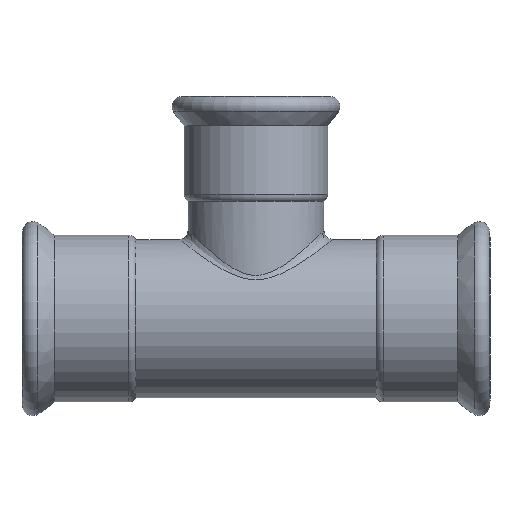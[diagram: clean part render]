
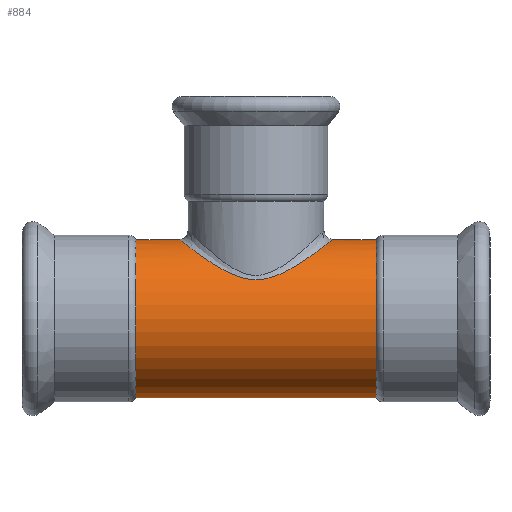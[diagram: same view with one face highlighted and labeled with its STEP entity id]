
A CAD part, front view. The second image highlights one B-rep face of the part: STEP entity #884.
In plain terms, the highlighted cylindrical face has radius 44.45 mm (diameter 88.9 mm), a full revolution.
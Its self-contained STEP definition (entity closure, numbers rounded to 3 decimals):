
#16=FACE_BOUND('',#169,.T.);
#22=B_SPLINE_CURVE_WITH_KNOTS('',3,(#2309,#2310,#2311,#2312,#2313,#2314,
#2315,#2316,#2317,#2318,#2319,#2320,#2321,#2322,#2323,#2324,#2325,#2326,
#2327,#2328,#2329,#2330,#2331,#2332,#2333,#2334,#2335,#2336,#2337,#2338,
#2339,#2340,#2341,#2342),.UNSPECIFIED.,.T.,.F.,(4,1,1,1,1,1,1,1,1,1,1,1,
1,1,1,1,1,1,1,1,1,1,1,1,1,1,1,1,1,1,1,4),(-25.053,-24.606,
-24.158,-23.264,-22.369,-21.474,
-20.579,-19.685,-18.79,-17.895,
-16.702,-15.509,-14.913,-14.316,
-13.72,-13.123,-12.527,-11.93,
-10.737,-10.141,-9.544,-8.351,
-7.158,-5.965,-4.772,-4.474,
-3.579,-2.684,-1.79,-0.895,
-0.447,0.),.UNSPECIFIED.);
#42=LINE('',#2354,#64);
#64=VECTOR('',#1289,44.45);
#82=CYLINDRICAL_SURFACE('',#1017,44.45);
#127=FACE_OUTER_BOUND('',#168,.T.);
#168=EDGE_LOOP('',(#729,#730,#731,#732,#733,#734,#735,#736));
#169=EDGE_LOOP('',(#737));
#264=CIRCLE('',#1018,44.45);
#265=CIRCLE('',#1019,44.45);
#266=CIRCLE('',#1020,44.45);
#267=CIRCLE('',#1021,44.45);
#268=CIRCLE('',#1022,44.45);
#269=CIRCLE('',#1023,44.45);
#376=VERTEX_POINT('',#2267);
#380=VERTEX_POINT('',#2348);
#381=VERTEX_POINT('',#2349);
#382=VERTEX_POINT('',#2351);
#383=VERTEX_POINT('',#2353);
#384=VERTEX_POINT('',#2355);
#385=VERTEX_POINT('',#2357);
#508=EDGE_CURVE('',#376,#376,#22,.T.);
#511=EDGE_CURVE('',#380,#381,#264,.T.);
#512=EDGE_CURVE('',#382,#380,#265,.T.);
#513=EDGE_CURVE('',#382,#383,#42,.T.);
#514=EDGE_CURVE('',#383,#384,#266,.T.);
#515=EDGE_CURVE('',#384,#385,#267,.T.);
#516=EDGE_CURVE('',#385,#383,#268,.T.);
#517=EDGE_CURVE('',#381,#382,#269,.T.);
#729=ORIENTED_EDGE('',*,*,#511,.F.);
#730=ORIENTED_EDGE('',*,*,#512,.F.);
#731=ORIENTED_EDGE('',*,*,#513,.T.);
#732=ORIENTED_EDGE('',*,*,#514,.T.);
#733=ORIENTED_EDGE('',*,*,#515,.T.);
#734=ORIENTED_EDGE('',*,*,#516,.T.);
#735=ORIENTED_EDGE('',*,*,#513,.F.);
#736=ORIENTED_EDGE('',*,*,#517,.F.);
#737=ORIENTED_EDGE('',*,*,#508,.F.);
#884=ADVANCED_FACE('',(#127,#16),#82,.T.);
#1017=AXIS2_PLACEMENT_3D('',#2347,#1283,#1284);
#1018=AXIS2_PLACEMENT_3D('',#2350,#1285,#1286);
#1019=AXIS2_PLACEMENT_3D('',#2352,#1287,#1288);
#1020=AXIS2_PLACEMENT_3D('',#2356,#1290,#1291);
#1021=AXIS2_PLACEMENT_3D('',#2358,#1292,#1293);
#1022=AXIS2_PLACEMENT_3D('',#2359,#1294,#1295);
#1023=AXIS2_PLACEMENT_3D('',#2360,#1296,#1297);
#1283=DIRECTION('center_axis',(1.,0.,0.));
#1284=DIRECTION('ref_axis',(0.,1.,0.));
#1285=DIRECTION('center_axis',(1.,0.,0.));
#1286=DIRECTION('ref_axis',(0.,1.,0.));
#1287=DIRECTION('center_axis',(1.,0.,0.));
#1288=DIRECTION('ref_axis',(0.,1.,0.));
#1289=DIRECTION('',(-1.,0.,0.));
#1290=DIRECTION('center_axis',(1.,0.,0.));
#1291=DIRECTION('ref_axis',(0.,1.,0.));
#1292=DIRECTION('center_axis',(1.,0.,0.));
#1293=DIRECTION('ref_axis',(0.,1.,0.));
#1294=DIRECTION('center_axis',(1.,0.,0.));
#1295=DIRECTION('ref_axis',(0.,1.,0.));
#1296=DIRECTION('center_axis',(1.,0.,0.));
#1297=DIRECTION('ref_axis',(0.,1.,0.));
#2267=CARTESIAN_POINT('',(-131.5,-38.697,21.871));
#2309=CARTESIAN_POINT('Ctrl Pts',(-131.5,-38.697,21.871));
#2310=CARTESIAN_POINT('Ctrl Pts',(-129.768,-38.697,21.871));
#2311=CARTESIAN_POINT('Ctrl Pts',(-126.296,-38.505,22.214));
#2312=CARTESIAN_POINT('Ctrl Pts',(-119.747,-37.43,24.036));
#2313=CARTESIAN_POINT('Ctrl Pts',(-112.368,-34.987,27.632));
#2314=CARTESIAN_POINT('Ctrl Pts',(-104.744,-30.671,32.417));
#2315=CARTESIAN_POINT('Ctrl Pts',(-98.164,-24.958,37.055));
#2316=CARTESIAN_POINT('Ctrl Pts',(-92.884,-17.835,41.009));
#2317=CARTESIAN_POINT('Ctrl Pts',(-89.303,-9.365,43.78));
#2318=CARTESIAN_POINT('Ctrl Pts',(-88.026,-0.006,
44.783));
#2319=CARTESIAN_POINT('Ctrl Pts',(-89.433,10.373,43.678));
#2320=CARTESIAN_POINT('Ctrl Pts',(-94.293,20.578,39.92));
#2321=CARTESIAN_POINT('Ctrl Pts',(-100.954,27.68,35.027));
#2322=CARTESIAN_POINT('Ctrl Pts',(-107.317,32.169,30.782));
#2323=CARTESIAN_POINT('Ctrl Pts',(-112.514,34.871,27.654));
#2324=CARTESIAN_POINT('Ctrl Pts',(-118.256,36.966,24.754));
#2325=CARTESIAN_POINT('Ctrl Pts',(-124.565,38.351,22.5));
#2326=CARTESIAN_POINT('Ctrl Pts',(-131.5,38.871,21.552));
#2327=CARTESIAN_POINT('Ctrl Pts',(-140.721,38.18,22.818));
#2328=CARTESIAN_POINT('Ctrl Pts',(-148.79,35.756,26.655));
#2329=CARTESIAN_POINT('Ctrl Pts',(-155.728,32.14,30.805));
#2330=CARTESIAN_POINT('Ctrl Pts',(-162.064,27.668,35.045));
#2331=CARTESIAN_POINT('Ctrl Pts',(-168.709,20.555,39.919));
#2332=CARTESIAN_POINT('Ctrl Pts',(-174.005,9.488,44.019));
#2333=CARTESIAN_POINT('Ctrl Pts',(-175.165,-3.218,44.934));
#2334=CARTESIAN_POINT('Ctrl Pts',(-172.646,-12.266,42.958));
#2335=CARTESIAN_POINT('Ctrl Pts',(-168.931,-19.437,40.121));
#2336=CARTESIAN_POINT('Ctrl Pts',(-164.829,-24.967,37.05));
#2337=CARTESIAN_POINT('Ctrl Pts',(-158.213,-30.706,32.386));
#2338=CARTESIAN_POINT('Ctrl Pts',(-150.583,-35.004,27.607));
#2339=CARTESIAN_POINT('Ctrl Pts',(-143.26,-37.427,24.04));
#2340=CARTESIAN_POINT('Ctrl Pts',(-136.699,-38.506,22.213));
#2341=CARTESIAN_POINT('Ctrl Pts',(-133.232,-38.697,21.871));
#2342=CARTESIAN_POINT('Ctrl Pts',(-131.5,-38.697,21.871));
#2347=CARTESIAN_POINT('Origin',(-73.977,0.,0.));
#2348=CARTESIAN_POINT('',(-63.953,44.45,0.));
#2349=CARTESIAN_POINT('',(-63.953,0.,44.45));
#2350=CARTESIAN_POINT('Origin',(-63.953,0.,0.));
#2351=CARTESIAN_POINT('',(-63.953,-44.45,0.));
#2352=CARTESIAN_POINT('Origin',(-63.953,0.,0.));
#2353=CARTESIAN_POINT('',(-199.047,-44.45,0.));
#2354=CARTESIAN_POINT('',(-73.977,-44.45,0.));
#2355=CARTESIAN_POINT('',(-199.047,44.45,0.));
#2356=CARTESIAN_POINT('Origin',(-199.047,0.,0.));
#2357=CARTESIAN_POINT('',(-199.047,0.,44.45));
#2358=CARTESIAN_POINT('Origin',(-199.047,0.,0.));
#2359=CARTESIAN_POINT('Origin',(-199.047,0.,0.));
#2360=CARTESIAN_POINT('Origin',(-63.953,0.,0.));
